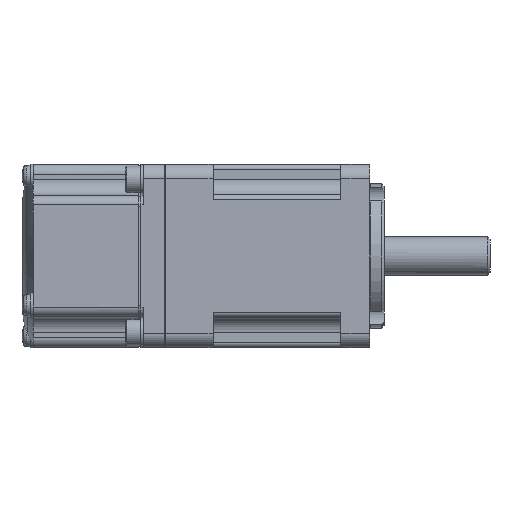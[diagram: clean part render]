
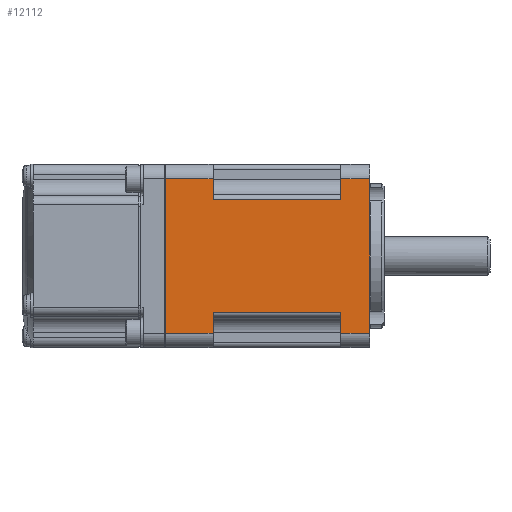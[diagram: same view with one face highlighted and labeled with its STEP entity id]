
A CAD part, front view. The second image highlights one B-rep face of the part: STEP entity #12112.
In plain terms, the highlighted planar face has unit normal (0, -1, 0).
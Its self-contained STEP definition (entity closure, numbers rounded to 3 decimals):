
#453=LINE('',#18144,#1688);
#456=LINE('',#18157,#1691);
#470=LINE('',#18195,#1705);
#471=LINE('',#18199,#1706);
#472=LINE('',#18200,#1707);
#473=LINE('',#18202,#1708);
#474=LINE('',#18204,#1709);
#475=LINE('',#18206,#1710);
#476=LINE('',#18208,#1711);
#477=LINE('',#18209,#1712);
#478=LINE('',#18211,#1713);
#479=LINE('',#18213,#1714);
#1688=VECTOR('',#14320,1000.);
#1691=VECTOR('',#14331,1000.);
#1705=VECTOR('',#14363,1000.);
#1706=VECTOR('',#14368,1000.);
#1707=VECTOR('',#14369,1000.);
#1708=VECTOR('',#14370,1000.);
#1709=VECTOR('',#14371,1000.);
#1710=VECTOR('',#14372,1000.);
#1711=VECTOR('',#14373,1000.);
#1712=VECTOR('',#14374,1000.);
#1713=VECTOR('',#14375,1000.);
#1714=VECTOR('',#14376,1000.);
#3055=ORIENTED_EDGE('',*,*,#6503,.F.);
#3056=ORIENTED_EDGE('',*,*,#6482,.T.);
#3057=ORIENTED_EDGE('',*,*,#6504,.T.);
#3058=ORIENTED_EDGE('',*,*,#6505,.T.);
#3059=ORIENTED_EDGE('',*,*,#6506,.F.);
#3060=ORIENTED_EDGE('',*,*,#6507,.T.);
#3061=ORIENTED_EDGE('',*,*,#6508,.F.);
#3062=ORIENTED_EDGE('',*,*,#6501,.F.);
#3063=ORIENTED_EDGE('',*,*,#6509,.F.);
#3064=ORIENTED_EDGE('',*,*,#6510,.F.);
#3065=ORIENTED_EDGE('',*,*,#6511,.T.);
#3066=ORIENTED_EDGE('',*,*,#6476,.F.);
#6476=EDGE_CURVE('',#8192,#8194,#453,.T.);
#6482=EDGE_CURVE('',#8197,#8199,#456,.T.);
#6501=EDGE_CURVE('',#8214,#8215,#470,.T.);
#6503=EDGE_CURVE('',#8197,#8192,#471,.T.);
#6504=EDGE_CURVE('',#8199,#8216,#472,.T.);
#6505=EDGE_CURVE('',#8216,#8217,#473,.T.);
#6506=EDGE_CURVE('',#8218,#8217,#474,.T.);
#6507=EDGE_CURVE('',#8218,#8219,#475,.T.);
#6508=EDGE_CURVE('',#8215,#8219,#476,.T.);
#6509=EDGE_CURVE('',#8220,#8214,#477,.T.);
#6510=EDGE_CURVE('',#8221,#8220,#478,.T.);
#6511=EDGE_CURVE('',#8221,#8194,#479,.T.);
#8192=VERTEX_POINT('',#18142);
#8194=VERTEX_POINT('',#18145);
#8197=VERTEX_POINT('',#18152);
#8199=VERTEX_POINT('',#18156);
#8214=VERTEX_POINT('',#18194);
#8215=VERTEX_POINT('',#18196);
#8216=VERTEX_POINT('',#18201);
#8217=VERTEX_POINT('',#18203);
#8218=VERTEX_POINT('',#18205);
#8219=VERTEX_POINT('',#18207);
#8220=VERTEX_POINT('',#18210);
#8221=VERTEX_POINT('',#18212);
#9732=EDGE_LOOP('',(#3055,#3056,#3057,#3058,#3059,#3060,#3061,#3062,#3063,
#3064,#3065,#3066));
#10675=FACE_BOUND('',#9732,.T.);
#11596=PLANE('',#12953);
#12112=ADVANCED_FACE('',(#10675),#11596,.T.);
#12953=AXIS2_PLACEMENT_3D('',#18198,#14366,#14367);
#14320=DIRECTION('',(1.,0.,0.));
#14331=DIRECTION('',(1.,0.,0.));
#14363=DIRECTION('',(1.,0.,0.));
#14366=DIRECTION('',(0.,-1.,0.));
#14367=DIRECTION('',(0.,0.,-1.));
#14368=DIRECTION('',(0.,0.,1.));
#14369=DIRECTION('',(0.,0.,1.));
#14370=DIRECTION('',(1.,0.,0.));
#14371=DIRECTION('',(0.,0.,1.));
#14372=DIRECTION('',(1.,0.,0.));
#14373=DIRECTION('',(0.,0.,-1.));
#14374=DIRECTION('',(0.,0.,1.));
#14375=DIRECTION('',(1.,0.,0.));
#14376=DIRECTION('',(0.,0.,1.));
#18142=CARTESIAN_POINT('',(-42.4,-19.,16.));
#18144=CARTESIAN_POINT('',(-72.,-19.,16.));
#18145=CARTESIAN_POINT('',(-32.5,-19.,16.));
#18152=CARTESIAN_POINT('',(-42.4,-19.,-16.));
#18156=CARTESIAN_POINT('',(-32.5,-19.,-16.));
#18157=CARTESIAN_POINT('',(-72.,-19.,-16.));
#18194=CARTESIAN_POINT('',(-6.,-19.,16.));
#18195=CARTESIAN_POINT('',(-72.,-19.,16.));
#18196=CARTESIAN_POINT('',(0.,-19.,16.));
#18198=CARTESIAN_POINT('',(-72.,-19.,16.));
#18199=CARTESIAN_POINT('',(-42.4,-19.,16.));
#18200=CARTESIAN_POINT('',(-32.5,-19.,16.));
#18201=CARTESIAN_POINT('',(-32.5,-19.,-11.71));
#18202=CARTESIAN_POINT('',(-32.5,-19.,-11.71));
#18203=CARTESIAN_POINT('',(-6.,-19.,-11.71));
#18204=CARTESIAN_POINT('',(-6.,-19.,16.));
#18205=CARTESIAN_POINT('',(-6.,-19.,-16.));
#18206=CARTESIAN_POINT('',(-72.,-19.,-16.));
#18207=CARTESIAN_POINT('',(0.,-19.,-16.));
#18208=CARTESIAN_POINT('',(0.,-19.,16.));
#18209=CARTESIAN_POINT('',(-6.,-19.,16.));
#18210=CARTESIAN_POINT('',(-6.,-19.,11.71));
#18211=CARTESIAN_POINT('',(-32.5,-19.,11.71));
#18212=CARTESIAN_POINT('',(-32.5,-19.,11.71));
#18213=CARTESIAN_POINT('',(-32.5,-19.,16.));
